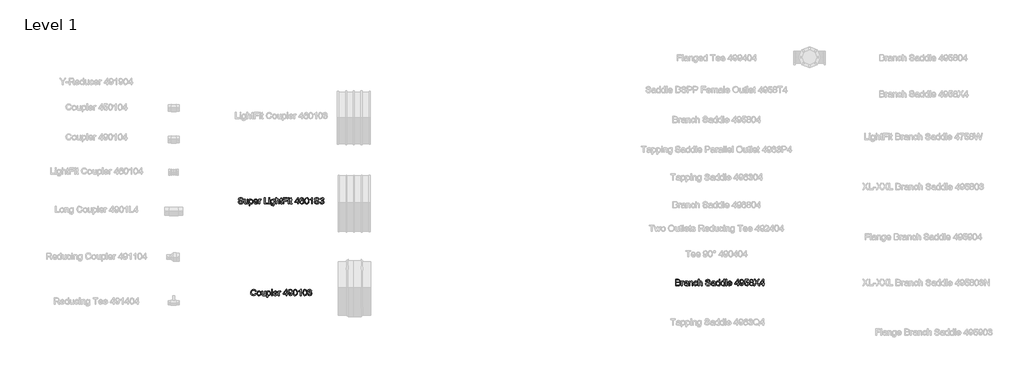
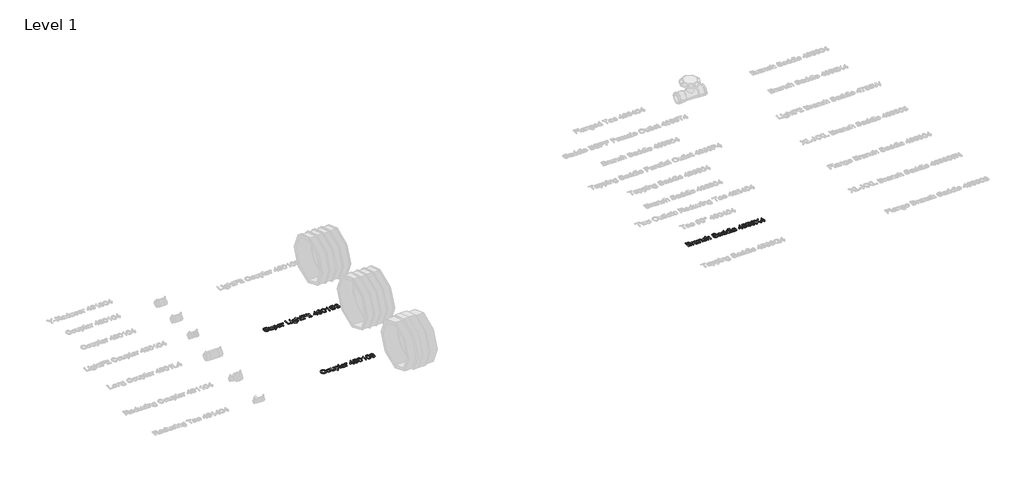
# One storey, part 3 of 38: 3 proxies.
"""IFC4 building model written with IfcOpenShell, lengths in millimetres."""

import ifcopenshell
import ifcopenshell.guid

model = None  # the IFC model being written
_history = None  # IfcOwnerHistory: only IFC2X3 demands one
_inside = {}  # id of a spatial element -> (the spatial element, [elements in it])
_under = {}  # id of a project, library or spatial element -> (it, [spatial elements below it])
_declared = {}  # id of a project -> (the project, [libraries it declares])
_typed = {}  # id of a type object -> (the type object, [elements of that type])
_made_of = {}  # id of a material, layer set ... -> (it, [elements and type objects made of it])


def new_model(schema):
    """Start an empty IFC model of exactly this schema.

    Asked for "IFC4X3", IfcOpenShell would pick the latest addendum, in which some entities
    have other attributes; the version numbers below select the first issue.
    IFC2X3 requires an IfcOwnerHistory on every rooted entity: one is made here for all.
    """
    global model, _history
    if schema == "IFC4X3":
        model = ifcopenshell.file(schema_version=(4, 3, 0, 0))
    else:
        model = ifcopenshell.file(schema=schema)
    _inside.clear()
    _under.clear()
    _declared.clear()
    _typed.clear()
    _made_of.clear()
    _history = None
    if model.schema == "IFC2X3":
        org = make("IfcOrganization", Name="unknown")
        user = make(
            "IfcPersonAndOrganization",
            ThePerson=make("IfcPerson", FamilyName="unknown"),
            TheOrganization=org,
        )
        app = make(
            "IfcApplication",
            ApplicationDeveloper=org,
            Version="unknown",
            ApplicationFullName="unknown",
            ApplicationIdentifier="unknown",
        )
        _history = make(
            "IfcOwnerHistory",
            OwningUser=user,
            OwningApplication=app,
            ChangeAction="ADDED",
            CreationDate=0,
        )
    return model


def make(cls, **values):
    """One entity of the class cls with the attributes given. An attribute that is None is left unset."""
    return model.create_entity(
        cls, **{name: value for name, value in values.items() if value is not None}
    )


def rooted(cls, **values):
    """An entity with a GlobalId (a new one), such as an element, a storey or a relation."""
    return make(cls, GlobalId=ifcopenshell.guid.new(), OwnerHistory=_history, **values)


def si_unit(unit_type, name, prefix=None):
    """IfcSIUnit, for example si_unit("LENGTHUNIT", "METRE", prefix="MILLI")."""
    return make("IfcSIUnit", UnitType=unit_type, Prefix=prefix, Name=name)


def assignment(units):
    """IfcUnitAssignment: the units of a project."""
    return None if units is None else make("IfcUnitAssignment", Units=units)


def point(xyz):
    """IfcCartesianPoint."""
    return None if xyz is None else make("IfcCartesianPoint", Coordinates=xyz)


def direction(xyz):
    """IfcDirection."""
    return None if xyz is None else make("IfcDirection", DirectionRatios=xyz)


def frame(location, z_axis=None, x_axis=None):
    """IfcAxis2Placement3D, a coordinate frame: its origin and axes. An axis left out is left unset."""
    return make(
        "IfcAxis2Placement3D",
        Location=point(location),
        Axis=direction(z_axis),
        RefDirection=direction(x_axis),
    )


def origin():
    """The frame at (0, 0, 0) with its axes left unset."""
    return frame((0.0, 0.0, 0.0))


def origin_with_axes():
    """The frame at (0, 0, 0) with the z axis (0, 0, 1) and the x axis (1, 0, 0) written out."""
    return frame((0.0, 0.0, 0.0), z_axis=(0.0, 0.0, 1.0), x_axis=(1.0, 0.0, 0.0))


def place(relative_to, where):
    """IfcLocalPlacement: puts the frame where relative to a parent placement (None: the world)."""
    return make(
        "IfcLocalPlacement", PlacementRelTo=relative_to, RelativePlacement=where
    )


def context(
    kind, dimensions, precision=None, world=None, true_north=None, identifier=None
):
    """IfcGeometricRepresentationContext, for example the 3D "Model" context."""
    return make(
        "IfcGeometricRepresentationContext",
        ContextIdentifier=identifier,
        ContextType=kind,
        CoordinateSpaceDimension=dimensions,
        Precision=precision,
        WorldCoordinateSystem=world,
        TrueNorth=true_north,
    )


def project(units=None, contexts=None):
    """IfcProject with its units and contexts."""
    return rooted(
        "IfcProject",
        Name="project",
        RepresentationContexts=contexts,
        UnitsInContext=assignment(units),
    )


def spatial(cls, under=None, at=None, **own):
    """A site, building, storey or space (cls), placed at a placement, below another one or the project."""
    s = rooted(cls, ObjectPlacement=at, **own)
    if under is not None:
        _under.setdefault(under.id(), (under, []))[1].append(s)
    return s


def polyline(points):
    """IfcPolyline through the points."""
    return make("IfcPolyline", Points=[point(p) for p in points])


def outline(outer, holes=None, kind="AREA"):
    """IfcArbitraryClosedProfileDef: a profile drawn as a closed curve; with holes, ...WithVoids."""
    if holes is None:
        return make("IfcArbitraryClosedProfileDef", ProfileType=kind, OuterCurve=outer)
    return make(
        "IfcArbitraryProfileDefWithVoids",
        ProfileType=kind,
        OuterCurve=outer,
        InnerCurves=holes,
    )


def extrude(swept, where, along, depth):
    """IfcExtrudedAreaSolid: the profile swept, set in the frame where, extruded along a direction by depth."""
    return make(
        "IfcExtrudedAreaSolid",
        SweptArea=swept,
        Position=where,
        ExtrudedDirection=direction(along),
        Depth=depth,
    )


def shape(context_of_items, identifier, shape_type, items):
    """IfcShapeRepresentation: the items that make up one representation, for example the "Body"."""
    return make(
        "IfcShapeRepresentation",
        ContextOfItems=context_of_items,
        RepresentationIdentifier=identifier,
        RepresentationType=shape_type,
        Items=items,
    )


def made_of(thing, what):
    """Note that an element or type object is made of a material, layer set ...; save() writes the relation."""
    if what is not None:
        _made_of.setdefault(what.id(), (what, []))[1].append(thing)
    return thing


def element(
    cls,
    number,
    at=None,
    inside=None,
    cuts=None,
    type_object=None,
    material=None,
    context=None,
    identifier="Body",
    shape_type=None,
    held_by="IfcProductDefinitionShape",
    body=None,
    shapes=None,
    **own,
):
    """One element of the class cls, such as IfcWall. Its Tag is "e" and its number.

    at: its placement. inside: the storey or other place that contains it. cuts: it is an
    opening in that element (IfcRelVoidsElement). A single representation is given by context,
    identifier, shape_type and body (its items); several are given by shapes. held_by: the class
    of the entity that holds the representations. save() writes the other relations.
    """
    e = rooted(cls, Tag="e%d" % number, ObjectPlacement=at, **own)
    if body is not None:
        shapes = [shape(context, identifier, shape_type, body)]
    if shapes is not None:
        e.Representation = make(held_by, Representations=shapes)
    if inside is not None:
        _inside.setdefault(inside.id(), (inside, []))[1].append(e)
    if cuts is not None:
        rooted(
            "IfcRelVoidsElement", RelatingBuildingElement=cuts, RelatedOpeningElement=e
        )
    if type_object is not None:
        _typed.setdefault(type_object.id(), (type_object, []))[1].append(e)
    return made_of(e, material)


def aggregate(whole, parts):
    """IfcRelAggregates: a whole, such as a stair, and the parts it consists of."""
    return rooted("IfcRelAggregates", RelatingObject=whole, RelatedObjects=parts)


def save(model, path):
    """Write the relations noted so far, then the file.

    IfcRelAggregates (storeys below a building ...), IfcRelContainedInSpatialStructure (elements
    in a storey), IfcRelDefinesByType, IfcRelAssociatesMaterial and IfcRelDeclares: one each for
    every whole, place, type object, material and project.
    """
    for whole, parts in _under.values():
        aggregate(whole, parts)
    for where, things in _inside.values():
        rooted(
            "IfcRelContainedInSpatialStructure",
            RelatedElements=things,
            RelatingStructure=where,
        )
    for kind, things in _typed.values():
        rooted("IfcRelDefinesByType", RelatedObjects=things, RelatingType=kind)
    for what, things in _made_of.values():
        rooted("IfcRelAssociatesMaterial", RelatedObjects=things, RelatingMaterial=what)
    for by, libraries in _declared.values():
        rooted("IfcRelDeclares", RelatingContext=by, RelatedDefinitions=libraries)
    model.write(path)


model = new_model("IFC4")

# Units and contexts
model_context = context("Model", 3, world=origin())
ifc_project = project(units=[si_unit("LENGTHUNIT", "METRE", prefix="MILLI")], contexts=[model_context])

# Site, building, storey
site = spatial("IfcSite", under=ifc_project)
building = spatial("IfcBuilding", under=site)
storey = spatial("IfcBuildingStorey", under=building, Name="Level 1", Elevation=0.0)

# Proxies
placement = place(None, origin())
element("IfcBuildingElementProxy", 1, Name="100 mm Arial", ObjectType="100 mm Arial", at=placement, inside=storey, context=model_context, shape_type="SweptSolid", body=[
    extrude(outline(polyline([(2732.5048401, 2755.3643675), (2739.8894555, 2753.4605213), (2731.1346478, 2738.5686944), (2715.6731093, 2733.4412905), (2700.3053209, 2737.3210982), (2691.2908978, 2748.5566752), (2688.1971478, 2764.3499444), (2691.6947439, 2780.402829), (2701.6394555, 2790.809079), (2715.8317632, 2794.3643675), (2730.6226286, 2789.7634059), (2738.9663786, 2776.8114828), (2731.5817632, 2775.0518675), (2725.5240709, 2784.1311944), (2715.5433016, 2786.9797521), (2703.990417, 2783.8210982), (2697.4639747, 2775.340329), (2695.5817632, 2764.3643675), (2697.8101286, 2751.6432136), (2704.7476286, 2743.5158098), (2714.9375324, 2740.8259059), (2726.2380132, 2744.4893675), (2732.5048401, 2755.3643675)])), origin_with_axes(), (0.0, 0.0, 1.0), 5.0),
    extrude(outline(polyline([(2747.2740709, 2756.0566752), (2748.8714266, 2766.5170117), (2753.6634939, 2773.8691752), (2766.6731093, 2778.6720598), (2774.4309218, 2777.2099203), (2780.6274363, 2772.8235021), (2784.6893353, 2765.8589588), (2786.0433016, 2756.6624444), (2783.6490709, 2743.5230213), (2776.6755132, 2736.0879252), (2766.6731093, 2733.4412905), (2758.8215468, 2734.8980213), (2752.6322439, 2739.2682136), (2748.6136141, 2746.3787905), (2747.2740709, 2756.0566752)]), holes=[polyline([(2754.6586863, 2756.0710982), (2758.0769555, 2744.6263867), (2766.6731093, 2740.8259059), (2775.240417, 2744.6480213), (2778.6586863, 2756.3018675), (2775.2187824, 2767.4869636), (2766.6731093, 2771.2874444), (2758.0769555, 2767.5013867), (2754.6586863, 2756.0710982)])]), origin_with_axes(), (0.0, 0.0, 1.0), 5.0),
    extrude(outline(polyline([(2822.0433016, 2734.3643675), (2822.0433016, 2741.8210982), (2816.2596478, 2735.5362425), (2808.7163786, 2733.4412905), (2801.771667, 2734.9124444), (2796.9832055, 2738.6047521), (2794.7836863, 2744.0422521), (2794.3509939, 2750.9076367), (2794.3509939, 2777.7489828), (2801.7356093, 2777.7489828), (2801.7356093, 2754.3835982), (2802.1827247, 2746.8547521), (2805.1033978, 2742.434079), (2810.6058016, 2740.8259059), (2816.771667, 2742.4701367), (2820.8461863, 2746.9485021), (2822.0433016, 2755.1768675), (2822.0433016, 2777.7489828), (2829.427917, 2777.7489828), (2829.427917, 2734.3643675), (2822.0433016, 2734.3643675)])), origin_with_axes(), (0.0, 0.0, 1.0), 5.0),
    extrude(outline(polyline([(2839.5817632, 2717.7489828), (2839.5817632, 2777.7489828), (2846.9663786, 2777.7489828), (2846.9663786, 2770.5085982), (2852.0721478, 2776.6311944), (2858.9663786, 2778.6720598), (2868.3269555, 2775.8162905), (2874.4423401, 2767.7682136), (2876.5048401, 2756.3884059), (2874.1755132, 2744.4244636), (2867.4110901, 2736.2754252), (2858.0721478, 2733.4412905), (2851.646667, 2735.3379252), (2846.9663786, 2740.1335982), (2846.9663786, 2717.7489828), (2839.5817632, 2717.7489828)]), holes=[polyline([(2846.9663786, 2755.7105213), (2850.1610901, 2744.4605213), (2857.9134939, 2740.8259059), (2865.8245516, 2744.590329), (2869.1202247, 2756.2585982), (2865.9038786, 2767.5374444), (2858.2163786, 2771.2874444), (2850.3774363, 2767.2994636), (2846.9663786, 2755.7105213)])]), origin_with_axes(), (0.0, 0.0, 1.0), 5.0),
    extrude(outline(polyline([(2884.8125324, 2734.3643675), (2884.8125324, 2793.4412905), (2892.1971478, 2793.4412905), (2892.1971478, 2734.3643675), (2884.8125324, 2734.3643675)])), origin_with_axes(), (0.0, 0.0, 1.0), 5.0),
    extrude(outline(polyline([(2933.6490709, 2747.2874444), (2940.8894555, 2746.3643675), (2934.1178209, 2736.8307136), (2921.5048401, 2733.4412905), (2912.8401766, 2734.90343), (2906.1731093, 2739.2898482), (2901.9219074, 2746.3156896), (2900.5048401, 2755.6960982), (2901.9363305, 2765.3920117), (2906.2308016, 2772.6432136), (2912.8077247, 2777.1648482), (2921.0865709, 2778.6720598), (2929.1076045, 2777.168454), (2935.5168593, 2772.6576367), (2939.7193834, 2765.4208578), (2941.1202247, 2755.7393675), (2941.0769555, 2753.7489828), (2907.8894555, 2753.7489828), (2912.1370516, 2744.1576367), (2921.6490709, 2740.8259059), (2928.8894555, 2742.3691752), (2933.6490709, 2747.2874444)]), holes=[polyline([(2907.8894555, 2761.1335982), (2933.7356093, 2761.1335982), (2930.7788786, 2767.8259059), (2921.0577247, 2771.2874444), (2911.9639747, 2768.5254252), (2907.8894555, 2761.1335982)])]), origin_with_axes(), (0.0, 0.0, 1.0), 5.0),
    extrude(outline(polyline([(2948.5048401, 2734.3643675), (2948.5048401, 2777.7489828), (2954.9663786, 2777.7489828), (2954.9663786, 2771.3307136), (2959.552917, 2777.2441752), (2964.1683016, 2778.6720598), (2971.5817632, 2776.3932136), (2969.115417, 2769.7730213), (2963.9231093, 2771.2874444), (2959.7476286, 2769.8307136), (2957.0865709, 2765.7922521), (2955.8894555, 2757.1672521), (2955.8894555, 2734.3643675), (2948.5048401, 2734.3643675)])), origin_with_axes(), (0.0, 0.0, 1.0), 5.0),
    extrude(outline(polyline([(3021.427917, 2734.3643675), (3021.427917, 2748.2105213), (2994.6586863, 2748.2105213), (2994.6586863, 2755.5951367), (3023.2740709, 2792.5182136), (3028.8125324, 2792.5182136), (3028.8125324, 2755.5951367), (3036.1971478, 2755.5951367), (3036.1971478, 2748.2105213), (3028.8125324, 2748.2105213), (3028.8125324, 2734.3643675), (3021.427917, 2734.3643675)]), holes=[polyline([(3021.427917, 2755.5951367), (3021.427917, 2778.4124444), (3003.7452247, 2755.5951367), (3021.427917, 2755.5951367)])]), origin_with_axes(), (0.0, 0.0, 1.0), 5.0),
    extrude(outline(polyline([(3043.5817632, 2749.1335982), (3050.9663786, 2750.0566752), (3054.2836863, 2743.0110021), (3060.5721478, 2740.8259059), (3066.5505132, 2742.2321559), (3070.6033978, 2745.9893675), (3073.0192632, 2752.4076367), (3074.0865709, 2760.9749444), (3068.1370516, 2756.8210982), (3060.0384939, 2754.6720598), (3047.6995516, 2759.9220598), (3042.6586863, 2773.7537905), (3047.9447439, 2788.0326367), (3061.1923401, 2793.4412905), (3071.7139747, 2790.3547521), (3078.9543593, 2781.5566752), (3081.427917, 2765.027829), (3078.9615709, 2747.0927328), (3071.6274363, 2736.9316752), (3060.2259939, 2733.4412905), (3048.8750324, 2737.559079), (3043.5817632, 2749.1335982)]), holes=[polyline([(3074.0433016, 2773.9268675), (3070.8558016, 2782.7826367), (3062.3894555, 2786.0566752), (3053.5048401, 2782.5302328), (3050.0433016, 2773.3932136), (3053.3173401, 2765.2081175), (3062.1875324, 2762.0566752), (3070.7043593, 2765.2081175), (3074.0433016, 2773.9268675)])]), origin_with_axes(), (0.0, 0.0, 1.0), 5.0),
    extrude(outline(polyline([(3087.8894555, 2763.4268675), (3090.0601286, 2780.4244636), (3096.5072439, 2790.2249444), (3107.2740709, 2793.4412905), (3115.8990709, 2791.5374444), (3121.8558016, 2786.0494636), (3125.3173401, 2777.309079), (3126.6586863, 2763.4268675), (3124.5096478, 2746.5013867), (3118.084167, 2736.6792713), (3107.2740709, 2733.4412905), (3099.6009939, 2734.8475405), (3093.7740709, 2739.0662905), (3089.3606093, 2749.0578771), (3087.8894555, 2763.4268675)]), holes=[polyline([(3095.2740709, 2763.4412905), (3098.7356093, 2745.1023482), (3107.2740709, 2740.8259059), (3115.8125324, 2745.1167713), (3119.2740709, 2763.4412905), (3115.927917, 2781.5710982), (3107.1875324, 2786.0566752), (3098.8509939, 2782.1047521), (3095.2740709, 2763.4412905)])]), origin_with_axes(), (0.0, 0.0, 1.0), 5.0),
    extrude(outline(polyline([(3160.8125324, 2734.3643675), (3153.427917, 2734.3643675), (3153.427917, 2780.402829), (3146.4327247, 2775.4196559), (3138.6586863, 2771.6912905), (3138.6586863, 2778.6720598), (3149.4832055, 2785.5807136), (3156.052917, 2793.4412905), (3160.8125324, 2793.4412905), (3160.8125324, 2734.3643675)])), origin_with_axes(), (0.0, 0.0, 1.0), 5.0),
    extrude(outline(polyline([(3178.3509939, 2763.4268675), (3180.521667, 2780.4244636), (3186.9687824, 2790.2249444), (3197.7356093, 2793.4412905), (3206.3606093, 2791.5374444), (3212.3173401, 2786.0494636), (3215.7788786, 2777.309079), (3217.1202247, 2763.4268675), (3214.9711863, 2746.5013867), (3208.5457055, 2736.6792713), (3197.7356093, 2733.4412905), (3190.0625324, 2734.8475405), (3184.2356093, 2739.0662905), (3179.8221478, 2749.0578771), (3178.3509939, 2763.4268675)]), holes=[polyline([(3185.7356093, 2763.4412905), (3189.1971478, 2745.1023482), (3197.7356093, 2740.8259059), (3206.2740709, 2745.1167713), (3209.7356093, 2763.4412905), (3206.3894555, 2781.5710982), (3197.6490709, 2786.0566752), (3189.3125324, 2782.1047521), (3185.7356093, 2763.4412905)])]), origin_with_axes(), (0.0, 0.0, 1.0), 5.0),
    extrude(outline(polyline([(3223.5817632, 2750.0566752), (3230.9663786, 2750.9797521), (3235.0408978, 2743.2057136), (3242.6634939, 2740.8259059), (3251.6346478, 2744.0999444), (3254.9663786, 2752.2057136), (3251.6634939, 2759.8427328), (3243.2692632, 2762.8643675), (3238.0913786, 2762.0566752), (3238.9134939, 2769.4412905), (3248.4759939, 2771.4749444), (3252.1971478, 2777.9941752), (3249.5000324, 2783.7706175), (3242.5481093, 2786.0566752), (3235.5096478, 2783.7489828), (3231.8894555, 2776.8259059), (3224.5048401, 2777.7489828), (3230.5481093, 2789.3307136), (3242.2884939, 2793.4412905), (3251.1947439, 2791.4148482), (3257.4255132, 2785.8763867), (3259.5817632, 2778.4268675), (3257.5336863, 2771.6191752), (3251.4759939, 2766.7297521), (3259.5240709, 2761.6816752), (3262.3509939, 2752.0759059), (3256.6971478, 2738.8643675), (3242.4038786, 2733.4412905), (3229.4519555, 2738.0710982), (3223.5817632, 2750.0566752)])), origin_with_axes(), (0.0, 0.0, 1.0), 5.0),
])
element("IfcBuildingElementProxy", 2, Name="100 mm Arial", ObjectType="100 mm Arial", at=placement, inside=storey, context=model_context, shape_type="SweptSolid", body=[
    extrude(outline(polyline([(2571.8894555, 3614.6720598), (2579.2740709, 3614.6720598), (2581.6538786, 3607.2802328), (2587.4663786, 3602.6071559), (2596.3221478, 3600.8259059), (2604.0384939, 3602.1744636), (2609.021667, 3605.8811944), (2610.6586863, 3610.8355213), (2609.4327247, 3615.4436944), (2604.4134939, 3618.7970598), (2593.6610901, 3621.6167713), (2582.0865709, 3625.2585982), (2575.8053209, 3630.7537905), (2573.7356093, 3638.0951367), (2576.2957055, 3646.4533098), (2583.7740709, 3652.3523482), (2594.7211863, 3654.3643675), (2606.4038786, 3652.2585982), (2614.1923401, 3646.0710982), (2617.1202247, 3636.8259059), (2609.7356093, 3636.8259059), (2605.552917, 3644.4124444), (2595.0096478, 3646.9797521), (2584.4375324, 3644.4412905), (2581.1202247, 3638.3114828), (2583.4711863, 3633.1912905), (2595.5288786, 3629.0662905), (2608.5961863, 3625.3595598), (2615.7428209, 3619.3739828), (2618.0433016, 3611.0230213), (2615.396667, 3602.1888867), (2607.7812824, 3595.7417713), (2596.6106093, 3593.4412905), (2583.4207055, 3595.9220598), (2575.0769555, 3603.3932136), (2571.8894555, 3614.6720598)])), origin_with_axes(), (0.0, 0.0, 1.0), 5.0),
    extrude(outline(polyline([(2655.8894555, 3594.3643675), (2655.8894555, 3601.8210982), (2650.1058016, 3595.5362425), (2642.5625324, 3593.4412905), (2635.6178209, 3594.9124444), (2630.8293593, 3598.6047521), (2628.6298401, 3604.0422521), (2628.1971478, 3610.9076367), (2628.1971478, 3637.7489828), (2635.5817632, 3637.7489828), (2635.5817632, 3614.3835982), (2636.0288786, 3606.8547521), (2638.9495516, 3602.434079), (2644.4519555, 3600.8259059), (2650.6178209, 3602.4701367), (2654.6923401, 3606.9485021), (2655.8894555, 3615.1768675), (2655.8894555, 3637.7489828), (2663.2740709, 3637.7489828), (2663.2740709, 3594.3643675), (2655.8894555, 3594.3643675)])), origin_with_axes(), (0.0, 0.0, 1.0), 5.0),
    extrude(outline(polyline([(2673.427917, 3577.7489828), (2673.427917, 3637.7489828), (2680.8125324, 3637.7489828), (2680.8125324, 3630.5085982), (2685.9183016, 3636.6311944), (2692.8125324, 3638.6720598), (2702.1731093, 3635.8162905), (2708.2884939, 3627.7682136), (2710.3509939, 3616.3884059), (2708.021667, 3604.4244636), (2701.2572439, 3596.2754252), (2691.9183016, 3593.4412905), (2685.4928209, 3595.3379252), (2680.8125324, 3600.1335982), (2680.8125324, 3577.7489828), (2673.427917, 3577.7489828)]), holes=[polyline([(2680.8125324, 3615.7105213), (2684.0072439, 3604.4605213), (2691.7596478, 3600.8259059), (2699.6707055, 3604.590329), (2702.9663786, 3616.2585982), (2699.7500324, 3627.5374444), (2692.0625324, 3631.2874444), (2684.2235901, 3627.2994636), (2680.8125324, 3615.7105213)])]), origin_with_axes(), (0.0, 0.0, 1.0), 5.0),
    extrude(outline(polyline([(2749.0336863, 3607.2874444), (2756.2740709, 3606.3643675), (2749.5024363, 3596.8307136), (2736.8894555, 3593.4412905), (2728.224792, 3594.90343), (2721.5577247, 3599.2898482), (2717.3065228, 3606.3156896), (2715.8894555, 3615.6960982), (2717.3209459, 3625.3920117), (2721.615417, 3632.6432136), (2728.1923401, 3637.1648482), (2736.4711863, 3638.6720598), (2744.4922199, 3637.168454), (2750.9014747, 3632.6576367), (2755.1039988, 3625.4208578), (2756.5048401, 3615.7393675), (2756.4615709, 3613.7489828), (2723.2740709, 3613.7489828), (2727.521667, 3604.1576367), (2737.0336863, 3600.8259059), (2744.2740709, 3602.3691752), (2749.0336863, 3607.2874444)]), holes=[polyline([(2723.2740709, 3621.1335982), (2749.1202247, 3621.1335982), (2746.1634939, 3627.8259059), (2736.4423401, 3631.2874444), (2727.3485901, 3628.5254252), (2723.2740709, 3621.1335982)])]), origin_with_axes(), (0.0, 0.0, 1.0), 5.0),
    extrude(outline(polyline([(2763.8894555, 3594.3643675), (2763.8894555, 3637.7489828), (2770.3509939, 3637.7489828), (2770.3509939, 3631.3307136), (2774.9375324, 3637.2441752), (2779.552917, 3638.6720598), (2786.9663786, 3636.3932136), (2784.5000324, 3629.7730213), (2779.3077247, 3631.2874444), (2775.1322439, 3629.8307136), (2772.4711863, 3625.7922521), (2771.2740709, 3617.1672521), (2771.2740709, 3594.3643675), (2763.8894555, 3594.3643675)])), origin_with_axes(), (0.0, 0.0, 1.0), 5.0),
    extrude(outline(polyline([(2815.5817632, 3594.3643675), (2815.5817632, 3653.4412905), (2822.9663786, 3653.4412905), (2822.9663786, 3601.7489828), (2852.5048401, 3601.7489828), (2852.5048401, 3594.3643675), (2815.5817632, 3594.3643675)])), origin_with_axes(), (0.0, 0.0, 1.0), 5.0),
    extrude(outline(polyline([(2859.8894555, 3646.0566752), (2859.8894555, 3653.4412905), (2867.2740709, 3653.4412905), (2867.2740709, 3646.0566752), (2859.8894555, 3646.0566752)])), origin_with_axes(), (0.0, 0.0, 1.0), 5.0),
    extrude(outline(polyline([(2859.8894555, 3594.3643675), (2859.8894555, 3637.7489828), (2867.2740709, 3637.7489828), (2867.2740709, 3594.3643675), (2859.8894555, 3594.3643675)])), origin_with_axes(), (0.0, 0.0, 1.0), 5.0),
    extrude(outline(polyline([(2876.5048401, 3590.6720598), (2883.8894555, 3589.7489828), (2886.2836863, 3585.8547521), (2893.4519555, 3584.2105213), (2901.0096478, 3586.0710982), (2904.615417, 3591.2922521), (2905.1202247, 3599.902829), (2893.5817632, 3594.3643675), (2885.9681814, 3595.9761463), (2880.2908978, 3600.8114828), (2875.5817632, 3616.2730213), (2877.6947439, 3627.7177328), (2883.8101286, 3635.8162905), (2893.2211863, 3638.6720598), (2899.8089266, 3637.0566752), (2905.1202247, 3632.2105213), (2905.1202247, 3637.7489828), (2912.5048401, 3637.7489828), (2912.5048401, 3600.2922521), (2910.4856093, 3585.9485021), (2904.0889747, 3579.277829), (2893.3077247, 3576.8259059), (2881.0264747, 3580.2802328), (2876.5048401, 3590.6720598)]), holes=[polyline([(2882.9663786, 3616.777829), (2886.1178209, 3605.3475405), (2894.0288786, 3601.7489828), (2901.9255132, 3605.3259059), (2905.1202247, 3616.5614828), (2901.8317632, 3627.5735021), (2893.9134939, 3631.2874444), (2886.1610901, 3627.6311944), (2882.9663786, 3616.777829)])]), origin_with_axes(), (0.0, 0.0, 1.0), 5.0),
    extrude(outline(polyline([(2923.5817632, 3594.3643675), (2923.5817632, 3653.4412905), (2930.9663786, 3653.4412905), (2930.9663786, 3631.7201367), (2936.724792, 3636.934079), (2943.8173401, 3638.6720598), (2952.1106093, 3636.7754252), (2957.1442632, 3631.5326367), (2958.6586863, 3621.8259059), (2958.6586863, 3594.3643675), (2951.2740709, 3594.3643675), (2951.2740709, 3621.0614828), (2948.9231093, 3628.8499444), (2942.2596478, 3631.2874444), (2936.209167, 3629.6432136), (2932.1707055, 3625.1864828), (2930.9663786, 3617.4124444), (2930.9663786, 3594.3643675), (2923.5817632, 3594.3643675)])), origin_with_axes(), (0.0, 0.0, 1.0), 5.0),
    extrude(outline(polyline([(2984.5048401, 3600.5230213), (2985.427917, 3594.1480213), (2979.9038786, 3593.4412905), (2973.7163786, 3594.6672521), (2970.6298401, 3597.8835982), (2969.7356093, 3606.2634059), (2969.7356093, 3630.3643675), (2964.1971478, 3630.3643675), (2964.1971478, 3637.7489828), (2969.7356093, 3637.7489828), (2969.7356093, 3648.2922521), (2977.1202247, 3652.6335982), (2977.1202247, 3637.7489828), (2984.5048401, 3637.7489828), (2984.5048401, 3630.3643675), (2977.1202247, 3630.3643675), (2977.1202247, 3606.4797521), (2977.5096478, 3602.6720598), (2978.771667, 3601.3235021), (2981.2884939, 3600.8259059), (2984.5048401, 3600.5230213)])), origin_with_axes(), (0.0, 0.0, 1.0), 5.0),
    extrude(outline(polyline([(2992.8125324, 3594.3643675), (2992.8125324, 3653.4412905), (3032.5048401, 3653.4412905), (3032.5048401, 3646.0566752), (3000.1971478, 3646.0566752), (3000.1971478, 3628.5182136), (3027.8894555, 3628.5182136), (3027.8894555, 3621.1335982), (3000.1971478, 3621.1335982), (3000.1971478, 3594.3643675), (2992.8125324, 3594.3643675)])), origin_with_axes(), (0.0, 0.0, 1.0), 5.0),
    extrude(outline(polyline([(3041.7356093, 3646.0566752), (3041.7356093, 3653.4412905), (3049.1202247, 3653.4412905), (3049.1202247, 3646.0566752), (3041.7356093, 3646.0566752)])), origin_with_axes(), (0.0, 0.0, 1.0), 5.0),
    extrude(outline(polyline([(3041.7356093, 3594.3643675), (3041.7356093, 3637.7489828), (3049.1202247, 3637.7489828), (3049.1202247, 3594.3643675), (3041.7356093, 3594.3643675)])), origin_with_axes(), (0.0, 0.0, 1.0), 5.0),
    extrude(outline(polyline([(3075.8894555, 3600.5230213), (3076.8125324, 3594.1480213), (3071.2884939, 3593.4412905), (3065.1009939, 3594.6672521), (3062.0144555, 3597.8835982), (3061.1202247, 3606.2634059), (3061.1202247, 3630.3643675), (3055.5817632, 3630.3643675), (3055.5817632, 3637.7489828), (3061.1202247, 3637.7489828), (3061.1202247, 3648.2922521), (3068.5048401, 3652.6335982), (3068.5048401, 3637.7489828), (3075.8894555, 3637.7489828), (3075.8894555, 3630.3643675), (3068.5048401, 3630.3643675), (3068.5048401, 3606.4797521), (3068.8942632, 3602.6720598), (3070.1562824, 3601.3235021), (3072.6731093, 3600.8259059), (3075.8894555, 3600.5230213)])), origin_with_axes(), (0.0, 0.0, 1.0), 5.0),
    extrude(outline(polyline([(3128.5048401, 3594.3643675), (3128.5048401, 3608.2105213), (3101.7356093, 3608.2105213), (3101.7356093, 3615.5951367), (3130.3509939, 3652.5182136), (3135.8894555, 3652.5182136), (3135.8894555, 3615.5951367), (3143.2740709, 3615.5951367), (3143.2740709, 3608.2105213), (3135.8894555, 3608.2105213), (3135.8894555, 3594.3643675), (3128.5048401, 3594.3643675)]), holes=[polyline([(3128.5048401, 3615.5951367), (3128.5048401, 3638.4124444), (3110.8221478, 3615.5951367), (3128.5048401, 3615.5951367)])]), origin_with_axes(), (0.0, 0.0, 1.0), 5.0),
    extrude(outline(polyline([(3187.5817632, 3637.7489828), (3180.1971478, 3636.8259059), (3177.3990709, 3642.9845598), (3170.0000324, 3646.0566752), (3163.3365709, 3644.2682136), (3158.2957055, 3637.5542713), (3156.1971478, 3624.3932136), (3162.709167, 3630.2850405), (3170.7788786, 3632.2105213), (3183.3269555, 3626.9460982), (3188.5048401, 3613.3451367), (3186.0673401, 3603.1552328), (3179.3606093, 3595.9436944), (3169.6827247, 3593.4412905), (3161.3047199, 3595.0999444), (3154.6322439, 3600.0759059), (3150.2674603, 3608.8595598), (3148.8125324, 3621.9412905), (3150.427917, 3636.6492232), (3155.2740709, 3646.7057136), (3161.8906574, 3651.7573963), (3170.4615709, 3653.4412905), (3182.1298401, 3649.2730213), (3187.5817632, 3637.7489828)]), holes=[polyline([(3156.1971478, 3613.4605213), (3157.9062824, 3607.0638867), (3162.4495516, 3602.4196559), (3169.1058016, 3600.8259059), (3177.8101286, 3604.1287905), (3181.1202247, 3613.0999444), (3177.8533978, 3621.6888867), (3168.802917, 3624.8259059), (3159.8678209, 3621.6888867), (3156.1971478, 3613.4605213)])]), origin_with_axes(), (0.0, 0.0, 1.0), 5.0),
    extrude(outline(polyline([(3194.9663786, 3623.4268675), (3197.1370516, 3640.4244636), (3203.584167, 3650.2249444), (3214.3509939, 3653.4412905), (3222.9759939, 3651.5374444), (3228.9327247, 3646.0494636), (3232.3942632, 3637.309079), (3233.7356093, 3623.4268675), (3231.5865709, 3606.5013867), (3225.1610901, 3596.6792713), (3214.3509939, 3593.4412905), (3206.677917, 3594.8475405), (3200.8509939, 3599.0662905), (3196.4375324, 3609.0578771), (3194.9663786, 3623.4268675)]), holes=[polyline([(3202.3509939, 3623.4412905), (3205.8125324, 3605.1023482), (3214.3509939, 3600.8259059), (3222.8894555, 3605.1167713), (3226.3509939, 3623.4412905), (3223.0048401, 3641.5710982), (3214.2644555, 3646.0566752), (3205.927917, 3642.1047521), (3202.3509939, 3623.4412905)])]), origin_with_axes(), (0.0, 0.0, 1.0), 5.0),
    extrude(outline(polyline([(3267.8894555, 3594.3643675), (3260.5048401, 3594.3643675), (3260.5048401, 3640.402829), (3253.5096478, 3635.4196559), (3245.7356093, 3631.6912905), (3245.7356093, 3638.6720598), (3256.5601286, 3645.5807136), (3263.1298401, 3653.4412905), (3267.8894555, 3653.4412905), (3267.8894555, 3594.3643675)])), origin_with_axes(), (0.0, 0.0, 1.0), 5.0),
    extrude(outline(polyline([(3285.427917, 3614.6720598), (3292.8125324, 3614.6720598), (3295.1923401, 3607.2802328), (3301.0048401, 3602.6071559), (3309.8606093, 3600.8259059), (3317.5769555, 3602.1744636), (3322.5601286, 3605.8811944), (3324.1971478, 3610.8355213), (3322.9711863, 3615.4436944), (3317.9519555, 3618.7970598), (3307.1995516, 3621.6167713), (3295.6250324, 3625.2585982), (3289.3437824, 3630.7537905), (3287.2740709, 3638.0951367), (3289.834167, 3646.4533098), (3297.3125324, 3652.3523482), (3308.2596478, 3654.3643675), (3319.9423401, 3652.2585982), (3327.7308016, 3646.0710982), (3330.6586863, 3636.8259059), (3323.2740709, 3636.8259059), (3319.0913786, 3644.4124444), (3308.5481093, 3646.9797521), (3297.9759939, 3644.4412905), (3294.6586863, 3638.3114828), (3297.0096478, 3633.1912905), (3309.0673401, 3629.0662905), (3322.1346478, 3625.3595598), (3329.2812824, 3619.3739828), (3331.5817632, 3611.0230213), (3328.9351286, 3602.1888867), (3321.3197439, 3595.7417713), (3310.1490709, 3593.4412905), (3296.959167, 3595.9220598), (3288.615417, 3603.3932136), (3285.427917, 3614.6720598)])), origin_with_axes(), (0.0, 0.0, 1.0), 5.0),
    extrude(outline(polyline([(3339.8894555, 3610.0566752), (3347.2740709, 3610.9797521), (3351.3485901, 3603.2057136), (3358.9711863, 3600.8259059), (3367.9423401, 3604.0999444), (3371.2740709, 3612.2057136), (3367.9711863, 3619.8427328), (3359.5769555, 3622.8643675), (3354.3990709, 3622.0566752), (3355.2211863, 3629.4412905), (3364.7836863, 3631.4749444), (3368.5048401, 3637.9941752), (3365.8077247, 3643.7706175), (3358.8558016, 3646.0566752), (3351.8173401, 3643.7489828), (3348.1971478, 3636.8259059), (3340.8125324, 3637.7489828), (3346.8558016, 3649.3307136), (3358.5961863, 3653.4412905), (3367.5024363, 3651.4148482), (3373.7332055, 3645.8763867), (3375.8894555, 3638.4268675), (3373.8413786, 3631.6191752), (3367.7836863, 3626.7297521), (3375.8317632, 3621.6816752), (3378.6586863, 3612.0759059), (3373.0048401, 3598.8643675), (3358.7115709, 3593.4412905), (3345.7596478, 3598.0710982), (3339.8894555, 3610.0566752)])), origin_with_axes(), (0.0, 0.0, 1.0), 5.0),
])
element("IfcBuildingElementProxy", 3, Name="100 mm Arial", ObjectType="100 mm Arial", at=placement, inside=storey, context=model_context, shape_type="SweptSolid", body=[
    extrude(outline(polyline([(6675.9808456, 2827.5779735), (6675.9808456, 2886.6548966), (6698.5241149, 2886.6548966), (6709.5649803, 2884.9169158), (6716.084211, 2879.5731658), (6718.4423841, 2872.0154735), (6716.459211, 2865.1140312), (6710.4664226, 2859.8856658), (6717.7428649, 2854.3760505), (6720.288538, 2845.1885505), (6718.5505572, 2837.2486466), (6714.2452687, 2831.5948005), (6707.819788, 2828.5948005), (6698.351038, 2827.5779735), (6675.9808456, 2827.5779735)]), holes=[polyline([(6683.365461, 2834.9625889), (6698.5096918, 2834.9625889), (6703.990461, 2835.2510505), (6708.6274803, 2836.8592235), (6711.6995956, 2840.1404735), (6712.9039226, 2845.1164351), (6711.490461, 2850.8568197), (6706.9111341, 2854.2823005), (6697.788538, 2855.2702812), (6683.365461, 2855.2702812), (6683.365461, 2834.9625889)]), polyline([(6683.365461, 2862.6548966), (6696.851038, 2862.6548966), (6704.726038, 2863.289512), (6709.4640187, 2866.0226851), (6711.0577687, 2870.8327812), (6709.5721918, 2875.6500889), (6705.3173841, 2878.4986466), (6695.8269995, 2879.2702812), (6683.365461, 2879.2702812), (6683.365461, 2862.6548966)])]), origin_with_axes(), (0.0, 0.0, 1.0), 5.0),
    extrude(outline(polyline([(6729.5193072, 2827.5779735), (6729.5193072, 2870.9625889), (6735.9808456, 2870.9625889), (6735.9808456, 2864.5443197), (6740.5673841, 2870.4577812), (6745.1827687, 2871.8856658), (6752.5962303, 2869.6068197), (6750.1298841, 2862.9866274), (6744.9375764, 2864.5010505), (6740.7620956, 2863.0443197), (6738.101038, 2859.0058582), (6736.9039226, 2850.3808582), (6736.9039226, 2827.5779735), (6729.5193072, 2827.5779735)])), origin_with_axes(), (0.0, 0.0, 1.0), 5.0),
    extrude(outline(polyline([(6784.9039226, 2833.1164351), (6777.7428649, 2828.1116274), (6769.8318072, 2826.6548966), (6759.1082495, 2830.1597043), (6755.365461, 2839.1164351), (6756.7789226, 2844.9577812), (6760.4928649, 2849.1981658), (6765.663538, 2851.6212428), (6772.052961, 2852.7318197), (6784.8606533, 2855.2702812), (6784.9039226, 2856.914512), (6782.8702687, 2862.3664351), (6774.7068072, 2864.5010505), (6767.2356533, 2863.0803774), (6763.6731533, 2858.039512), (6756.288538, 2858.9625889), (6759.4832495, 2866.1741274), (6765.9159418, 2870.4000889), (6775.6587303, 2871.8856658), (6784.6082495, 2870.5731658), (6789.663538, 2867.2774928), (6791.927961, 2862.2654735), (6792.288538, 2855.8039351), (6792.288538, 2846.6164351), (6792.663538, 2833.7871082), (6794.1346918, 2827.5779735), (6786.7500764, 2827.5779735), (6784.9039226, 2833.1164351)]), holes=[polyline([(6784.9039226, 2847.8856658), (6772.990461, 2845.6212428), (6766.6370956, 2844.4241274), (6763.7596918, 2842.477012), (6762.7500764, 2839.6356658), (6764.9495956, 2835.6404735), (6771.4039226, 2834.039512), (6778.8750764, 2835.8063389), (6783.6923841, 2840.0827812), (6784.8606533, 2845.7943197), (6784.9039226, 2847.8856658)])]), origin_with_axes(), (0.0, 0.0, 1.0), 5.0),
    extrude(outline(polyline([(6802.4423841, 2827.5779735), (6802.4423841, 2870.9625889), (6809.8269995, 2870.9625889), (6809.8269995, 2864.9048966), (6815.4736341, 2870.1404735), (6823.1827687, 2871.8856658), (6830.1563264, 2870.4794158), (6834.9159418, 2866.7871082), (6837.1298841, 2861.3568197), (6837.5193072, 2854.2173966), (6837.5193072, 2827.5779735), (6830.1346918, 2827.5779735), (6830.1346918, 2853.2222043), (6829.2837303, 2859.7558582), (6826.2765187, 2863.2101851), (6821.2068072, 2864.5010505), (6813.194788, 2861.602012), (6809.8269995, 2850.5972043), (6809.8269995, 2827.5779735), (6802.4423841, 2827.5779735)])), origin_with_axes(), (0.0, 0.0, 1.0), 5.0),
    extrude(outline(polyline([(6875.365461, 2843.2702812), (6882.7500764, 2842.3472043), (6876.8221918, 2830.8159543), (6865.1106533, 2826.6548966), (6857.2554851, 2828.1062187), (6851.1130572, 2832.4601851), (6847.1485139, 2839.5256899), (6845.8269995, 2849.1116274), (6848.084211, 2861.3784543), (6854.9640187, 2869.2606658), (6865.0096918, 2871.8856658), (6876.2380572, 2868.2798966), (6881.8269995, 2858.039512), (6874.4423841, 2857.1164351), (6871.0169033, 2862.6476851), (6865.0673841, 2864.5010505), (6856.507288, 2860.852012), (6853.2116149, 2849.3135505), (6856.4351726, 2837.6669158), (6864.865461, 2834.039512), (6871.8245956, 2836.3039351), (6875.365461, 2843.2702812)])), origin_with_axes(), (0.0, 0.0, 1.0), 5.0),
    extrude(outline(polyline([(6889.2116149, 2827.5779735), (6889.2116149, 2886.6548966), (6896.5962303, 2886.6548966), (6896.5962303, 2864.9337428), (6902.3546437, 2870.1476851), (6909.4471918, 2871.8856658), (6917.740461, 2869.9890312), (6922.7741149, 2864.7462428), (6924.288538, 2855.039512), (6924.288538, 2827.5779735), (6916.9039226, 2827.5779735), (6916.9039226, 2854.2750889), (6914.552961, 2862.0635505), (6907.8894995, 2864.5010505), (6901.8390187, 2862.8568197), (6897.8005572, 2858.4000889), (6896.5962303, 2850.6260505), (6896.5962303, 2827.5779735), (6889.2116149, 2827.5779735)])), origin_with_axes(), (0.0, 0.0, 1.0), 5.0),
    extrude(outline(polyline([(6955.6731533, 2847.8856658), (6963.0577687, 2847.8856658), (6965.4375764, 2840.4938389), (6971.2500764, 2835.820762), (6980.1058456, 2834.039512), (6987.8221918, 2835.3880697), (6992.8053649, 2839.0948005), (6994.4423841, 2844.0491274), (6993.2164226, 2848.6573005), (6988.1971918, 2852.0106658), (6977.444788, 2854.8303774), (6965.8702687, 2858.4722043), (6959.5890187, 2863.9673966), (6957.5193072, 2871.3087428), (6960.0794033, 2879.6669158), (6967.5577687, 2885.5659543), (6978.5048841, 2887.5779735), (6990.1875764, 2885.4722043), (6997.976038, 2879.2847043), (7000.9039226, 2870.039512), (6993.5193072, 2870.039512), (6989.3366149, 2877.6260505), (6978.7933456, 2880.1933582), (6968.2212303, 2877.6548966), (6964.9039226, 2871.5250889), (6967.2548841, 2866.4048966), (6979.3125764, 2862.2798966), (6992.3798841, 2858.5731658), (6999.5265187, 2852.5875889), (7001.8269995, 2844.2366274), (6999.1803649, 2835.4024928), (6991.5649803, 2828.9553774), (6980.3943072, 2826.6548966), (6967.2044033, 2829.1356658), (6958.8606533, 2836.6068197), (6955.6731533, 2847.8856658)])), origin_with_axes(), (0.0, 0.0, 1.0), 5.0),
    extrude(outline(polyline([(7039.6731533, 2833.1164351), (7032.5120956, 2828.1116274), (7024.601038, 2826.6548966), (7013.8774803, 2830.1597043), (7010.1346918, 2839.1164351), (7011.5481533, 2844.9577812), (7015.2620956, 2849.1981658), (7020.4327687, 2851.6212428), (7026.8221918, 2852.7318197), (7039.6298841, 2855.2702812), (7039.6731533, 2856.914512), (7037.6394995, 2862.3664351), (7029.476038, 2864.5010505), (7022.0048841, 2863.0803774), (7018.4423841, 2858.039512), (7011.0577687, 2858.9625889), (7014.2524803, 2866.1741274), (7020.6851726, 2870.4000889), (7030.427961, 2871.8856658), (7039.3774803, 2870.5731658), (7044.4327687, 2867.2774928), (7046.6971918, 2862.2654735), (7047.0577687, 2855.8039351), (7047.0577687, 2846.6164351), (7047.4327687, 2833.7871082), (7048.9039226, 2827.5779735), (7041.5193072, 2827.5779735), (7039.6731533, 2833.1164351)]), holes=[polyline([(7039.6731533, 2847.8856658), (7027.7596918, 2845.6212428), (7021.4063264, 2844.4241274), (7018.5289226, 2842.477012), (7017.5193072, 2839.6356658), (7019.7188264, 2835.6404735), (7026.1731533, 2834.039512), (7033.6443072, 2835.8063389), (7038.4616149, 2840.0827812), (7039.6298841, 2845.7943197), (7039.6731533, 2847.8856658)])]), origin_with_axes(), (0.0, 0.0, 1.0), 5.0),
    extrude(outline(polyline([(7083.9808456, 2827.5779735), (7083.9808456, 2834.5443197), (7079.0950283, 2828.6272524), (7072.3414226, 2826.6548966), (7063.1971918, 2829.5106658), (7056.7356533, 2837.4794158), (7054.4423841, 2849.227012), (7056.5553649, 2860.9818197), (7062.8870956, 2869.0731658), (7072.3125764, 2871.8856658), (7079.1202687, 2869.8736466), (7083.9808456, 2864.6452812), (7083.9808456, 2886.6548966), (7091.365461, 2886.6548966), (7091.365461, 2827.5779735), (7083.9808456, 2827.5779735)]), holes=[polyline([(7061.8269995, 2849.2558582), (7065.1587303, 2837.8255697), (7073.0193072, 2834.039512), (7080.7861341, 2837.6524928), (7083.9808456, 2848.6933582), (7080.7284418, 2860.6789351), (7072.7164226, 2864.5010505), (7064.9423841, 2860.8303774), (7061.8269995, 2849.2558582)])]), origin_with_axes(), (0.0, 0.0, 1.0), 5.0),
    extrude(outline(polyline([(7129.2116149, 2827.5779735), (7129.2116149, 2834.5443197), (7124.3257976, 2828.6272524), (7117.5721918, 2826.6548966), (7108.427961, 2829.5106658), (7101.9664226, 2837.4794158), (7099.6731533, 2849.227012), (7101.7861341, 2860.9818197), (7108.1178649, 2869.0731658), (7117.5433456, 2871.8856658), (7124.351038, 2869.8736466), (7129.2116149, 2864.6452812), (7129.2116149, 2886.6548966), (7136.5962303, 2886.6548966), (7136.5962303, 2827.5779735), (7129.2116149, 2827.5779735)]), holes=[polyline([(7107.0577687, 2849.2558582), (7110.3894995, 2837.8255697), (7118.2500764, 2834.039512), (7126.0169033, 2837.6524928), (7129.2116149, 2848.6933582), (7125.959211, 2860.6789351), (7117.9471918, 2864.5010505), (7110.1731533, 2860.8303774), (7107.0577687, 2849.2558582)])]), origin_with_axes(), (0.0, 0.0, 1.0), 5.0),
    extrude(outline(polyline([(7147.6731533, 2827.5779735), (7147.6731533, 2886.6548966), (7155.0577687, 2886.6548966), (7155.0577687, 2827.5779735), (7147.6731533, 2827.5779735)])), origin_with_axes(), (0.0, 0.0, 1.0), 5.0),
    extrude(outline(polyline([(7196.5096918, 2840.5010505), (7203.7500764, 2839.5779735), (7196.9784418, 2830.0443197), (7184.365461, 2826.6548966), (7175.7007976, 2828.117036), (7169.0337303, 2832.5034543), (7164.7825283, 2839.5292957), (7163.365461, 2848.9097043), (7164.7969514, 2858.6056178), (7169.0914226, 2865.8568197), (7175.6683456, 2870.3784543), (7183.9471918, 2871.8856658), (7191.9682255, 2870.3820601), (7198.3774803, 2865.8712428), (7202.5800043, 2858.6344639), (7203.9808456, 2848.9529735), (7203.9375764, 2846.9625889), (7170.7500764, 2846.9625889), (7174.9976726, 2837.3712428), (7184.5096918, 2834.039512), (7191.7500764, 2835.5827812), (7196.5096918, 2840.5010505)]), holes=[polyline([(7170.7500764, 2854.3472043), (7196.5962303, 2854.3472043), (7193.6394995, 2861.039512), (7183.9183456, 2864.5010505), (7174.8245956, 2861.7390312), (7170.7500764, 2854.3472043)])]), origin_with_axes(), (0.0, 0.0, 1.0), 5.0),
    extrude(outline(polyline([(7256.5962303, 2827.5779735), (7256.5962303, 2841.4241274), (7229.8269995, 2841.4241274), (7229.8269995, 2848.8087428), (7258.4423841, 2885.7318197), (7263.9808456, 2885.7318197), (7263.9808456, 2848.8087428), (7271.365461, 2848.8087428), (7271.365461, 2841.4241274), (7263.9808456, 2841.4241274), (7263.9808456, 2827.5779735), (7256.5962303, 2827.5779735)]), holes=[polyline([(7256.5962303, 2848.8087428), (7256.5962303, 2871.6260505), (7238.913538, 2848.8087428), (7256.5962303, 2848.8087428)])]), origin_with_axes(), (0.0, 0.0, 1.0), 5.0),
    extrude(outline(polyline([(7278.7500764, 2842.3472043), (7286.1346918, 2843.2702812), (7289.4519995, 2836.2246082), (7295.740461, 2834.039512), (7301.7188264, 2835.445762), (7305.771711, 2839.2029735), (7308.1875764, 2845.6212428), (7309.2548841, 2854.1885505), (7303.3053649, 2850.0347043), (7295.2068072, 2847.8856658), (7282.8678649, 2853.1356658), (7277.8269995, 2866.9673966), (7283.1130572, 2881.2462428), (7296.3606533, 2886.6548966), (7306.882288, 2883.5683582), (7314.1226726, 2874.7702812), (7316.5962303, 2858.2414351), (7314.1298841, 2840.3063389), (7306.7957495, 2830.1452812), (7295.3943072, 2826.6548966), (7284.0433456, 2830.7726851), (7278.7500764, 2842.3472043)]), holes=[polyline([(7309.2116149, 2867.1404735), (7306.0241149, 2875.9962428), (7297.5577687, 2879.2702812), (7288.6731533, 2875.7438389), (7285.2116149, 2866.6068197), (7288.4856533, 2858.4217235), (7297.3558456, 2855.2702812), (7305.8726726, 2858.4217235), (7309.2116149, 2867.1404735)])]), origin_with_axes(), (0.0, 0.0, 1.0), 5.0),
    extrude(outline(polyline([(7323.0577687, 2843.2702812), (7330.4423841, 2844.1933582), (7334.163538, 2836.5851851), (7341.8798841, 2834.039512), (7351.1394995, 2837.5803774), (7354.4423841, 2846.977012), (7351.3486341, 2855.7462428), (7341.9952687, 2858.9625889), (7335.5120956, 2857.6789351), (7331.365461, 2854.3472043), (7323.9808456, 2855.2702812), (7330.4423841, 2885.7318197), (7359.0577687, 2885.7318197), (7359.0577687, 2878.3472043), (7336.413538, 2878.3472043), (7333.2548841, 2862.0779735), (7344.0577687, 2866.3472043), (7356.6851726, 2861.0539351), (7361.8269995, 2847.4385505), (7357.1971918, 2833.7366274), (7350.5481533, 2828.4253293), (7341.851038, 2826.6548966), (7328.819788, 2831.2053774), (7323.0577687, 2843.2702812)])), origin_with_axes(), (0.0, 0.0, 1.0), 5.0),
    extrude(outline(polyline([(7379.0481533, 2860.1164351), (7372.319788, 2864.7029735), (7370.1346918, 2871.8423966), (7374.8943072, 2882.3856658), (7387.5721918, 2886.6548966), (7400.365461, 2882.2847043), (7405.2116149, 2871.6404735), (7403.0553649, 2864.6813389), (7396.5144995, 2860.1164351), (7404.3678649, 2854.3255697), (7407.0577687, 2844.7702812), (7401.7212303, 2831.8760505), (7387.6731533, 2826.6548966), (7373.6250764, 2831.8976851), (7368.288538, 2844.9722043), (7371.0866149, 2854.7510505), (7379.0481533, 2860.1164351)]), holes=[polyline([(7377.5193072, 2871.6260505), (7380.1370956, 2865.8279735), (7387.7596918, 2863.5779735), (7395.2308456, 2865.8135505), (7397.8269995, 2871.2943197), (7395.1443072, 2876.9698005), (7387.6731533, 2879.2702812), (7380.1803649, 2877.0202812), (7377.5193072, 2871.6260505)]), polyline([(7375.6731533, 2845.2318197), (7376.9063264, 2839.6717235), (7381.2693072, 2835.5106658), (7387.7308456, 2834.039512), (7396.5289226, 2837.133262), (7399.6731533, 2845.0010505), (7396.427961, 2853.0202812), (7387.4856533, 2856.1933582), (7378.7957495, 2853.0635505), (7375.6731533, 2845.2318197)])]), origin_with_axes(), (0.0, 0.0, 1.0), 5.0),
    extrude(outline(polyline([(7409.8269995, 2827.5779735), (7432.601038, 2859.7702812), (7413.5193072, 2886.6548966), (7422.3750764, 2886.6548966), (7433.1202687, 2871.5250889), (7436.740461, 2865.6260505), (7440.9808456, 2871.6260505), (7451.6106533, 2886.6548966), (7460.5962303, 2886.6548966), (7441.5144995, 2859.6837428), (7464.288538, 2827.5779735), (7455.4327687, 2827.5779735), (7440.2596918, 2848.9818197), (7437.101038, 2853.4241274), (7433.6250764, 2848.5491274), (7418.8125764, 2827.5779735), (7409.8269995, 2827.5779735)])), origin_with_axes(), (0.0, 0.0, 1.0), 5.0),
    extrude(outline(polyline([(7492.9039226, 2827.5779735), (7492.9039226, 2841.4241274), (7466.1346918, 2841.4241274), (7466.1346918, 2848.8087428), (7494.7500764, 2885.7318197), (7500.288538, 2885.7318197), (7500.288538, 2848.8087428), (7507.6731533, 2848.8087428), (7507.6731533, 2841.4241274), (7500.288538, 2841.4241274), (7500.288538, 2827.5779735), (7492.9039226, 2827.5779735)]), holes=[polyline([(7492.9039226, 2848.8087428), (7492.9039226, 2871.6260505), (7475.2212303, 2848.8087428), (7492.9039226, 2848.8087428)])]), origin_with_axes(), (0.0, 0.0, 1.0), 5.0),
])

save(model, "model.ifc")
